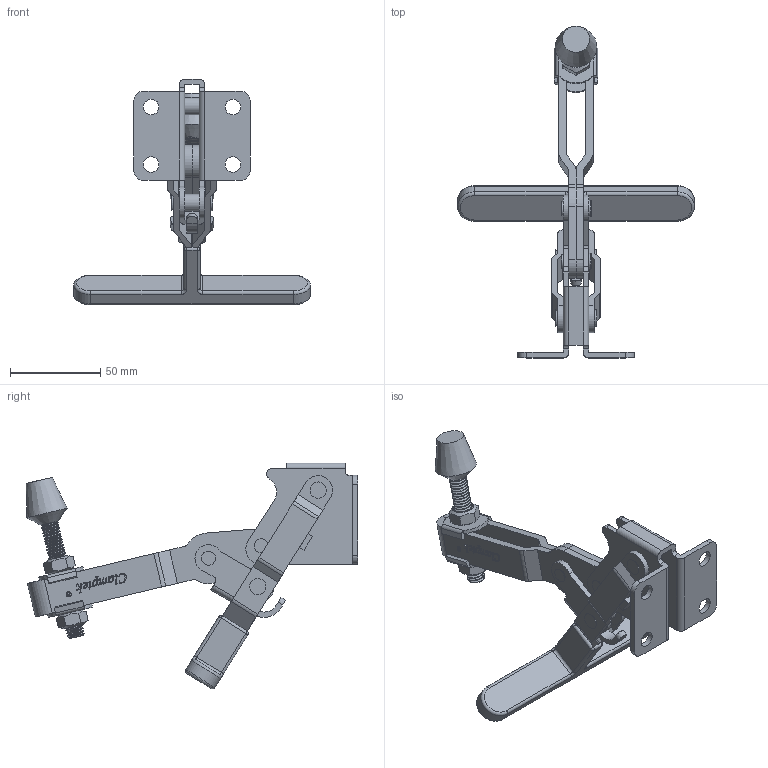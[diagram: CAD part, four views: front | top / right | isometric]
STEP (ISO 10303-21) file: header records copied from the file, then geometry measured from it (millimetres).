
FILE_DESCRIPTION(/* description */ ('STEP AP203'),/* implementation_level */ '2;1');
FILE_NAME(/* name */ 'D:\Vault_2016\Projekty\Clamptek\STRONA\Vertical toggle clamp\CH-12285\CH-12285_OTWARTY.stp',/* time_stamp */ '2019-01-16T17:12:47+01:00',/* author */ ('Łukasz'),/* organization */ ('Î¢ÈíÖÐ¹ú'),/* preprocessor_version */ 'ST-DEVELOPER v17.2',/* originating_system */ 'Autodesk Inventor 2019',/* authorisation */ '');
FILE_SCHEMA (('AUTOMOTIVE_DESIGN { 1 0 10303 214 3 1 1 }'));
Products named in the file (12): CH-12285; CH-12285-02 UBAR; CH-12265-04 CONNECTING-PLATE; CH-12265-01 FLANGED BASE; CH-12265-09; CH-12265-06; CH-FC-38312 NUT; CH-12265-05; CH-FC-38312 SPINDLE SUPPLIED; CH-FW-380; CH-12265-08; T-HANDLE
Assembly tree (17 placements, depth 2):
  CH-12285
    CH-12265-05  x2
    CH-12285-02 UBAR
    CH-12265-04 CONNECTING-PLATE
    CH-12265-06  x2
    CH-FC-38312 NUT  x2
    CH-FW-380  x2
    CH-12265-08  x2
    CH-12265-01 FLANGED BASE
    CH-12265-09  x2
    CH-FC-38312 SPINDLE SUPPLIED
    T-HANDLE
Bounding box: 131 x 183.64 x 125.05 mm (x, y, z)
Volume: 104652.8 mm3; surface area: 67867.3 mm2
Topology: 18 solids, 19 shells, 755 faces, 2107 edges, 1414 vertices
Faces by surface type: plane 322, bspline 184, cylinder 176, cone 61, torus 8, sphere 4
Full cylindrical faces by diameter (mm): 2.482 x1, 2.887 x1, 6.4 x16, 8.7 x4, 9 x4, 9.5 x52, 9.6 x4, 9.8 x2, 13.856 x1
Entity records: 52466 total; most frequent: CARTESIAN_POINT 35425, ORIENTED_EDGE 3812, DIRECTION 2843, EDGE_CURVE 1906, VERTEX_POINT 1276, LINE 1037, VECTOR 1037, AXIS2_PLACEMENT_3D 903
